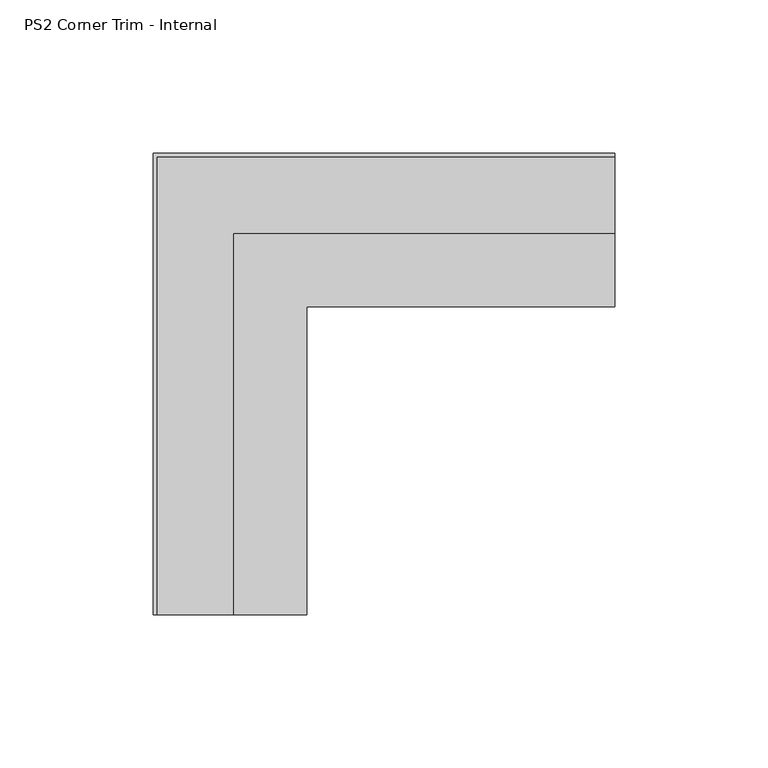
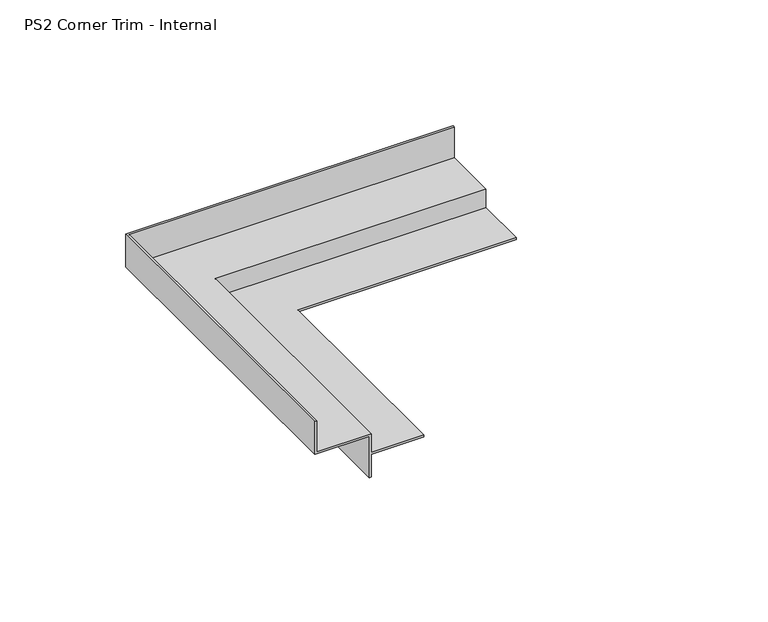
"""IFC4 building model written with IfcOpenShell, lengths in millimetres: proxy geometry, PS2 Corner Trim - Internal : Pelican Systems Plaster Trim 25 x 20."""

from ifc_helpers import new_model, si_unit, origin, place, context, project, spatial, faceted_brep, source, transform, mapped, element, save


def ps2_corner_trim_internal_befc4d37(model_context):
    return source(origin(), model_context, "Body", "Brep", [
        faceted_brep([(-30.0, -120.2318886, 16.0), (-30.0, -120.2318886, 0.0), (-5.0, -120.2318886, 0.0), (-5.0, -120.2318886, -20.0), (-4.0, -120.2318886, -20.0), (-4.0, -120.2318886, -9.0), (20.0, -120.2318886, -9.0), (20.0, -120.2318886, -8.0), (-4.0, -120.2318886, -8.0), (-4.0, -120.2318886, 1.0), (-29.0, -120.2318886, 1.0), (-29.0, -120.2318886, 16.0), (120.2318886, 30.0, 16.0), (120.2318886, 29.0, 16.0), (120.2318886, 29.0, 1.0), (120.2318886, 4.0, 1.0), (120.2318886, 4.0, -8.0), (120.2318886, -20.0, -8.0), (120.2318886, -20.0, -9.0), (120.2318886, 4.0, -9.0), (120.2318886, 4.0, -20.0), (120.2318886, 5.0, -20.0), (120.2318886, 5.0, 0.0), (120.2318886, 30.0, 0.0), (-30.0, 30.0, 0.0), (-30.0, 30.0, 16.0), (-5.0, 5.0, -20.0), (-5.0, 5.0, 0.0), (-4.0, 4.0, 1.0), (-4.0, 4.0, -8.0), (-29.0, 29.0, 16.0), (-29.0, 29.0, 1.0), (-4.0, 4.0, -9.0), (-4.0, 4.0, -20.0), (20.0, -20.0, -8.0), (20.0, -20.0, -9.0)], [[[0, 1, 2, 3, 4, 5, 6, 7, 8, 9, 10, 11]], [[12, 13, 14, 15, 16, 17, 18, 19, 20, 21, 22, 23]], [[24, 25, 12, 23]], [[26, 27, 22, 21]], [[28, 29, 16, 15]], [[30, 31, 14, 13]], [[32, 33, 20, 19]], [[34, 35, 18, 17]], [[1, 0, 25, 24]], [[2, 1, 24, 23, 22, 27]], [[3, 2, 27, 26]], [[4, 3, 26, 21, 20, 33]], [[5, 4, 33, 32]], [[6, 5, 32, 19, 18, 35]], [[7, 6, 35, 34]], [[8, 7, 34, 17, 16, 29]], [[9, 8, 29, 28]], [[10, 9, 28, 15, 14, 31]], [[11, 10, 31, 30]], [[0, 11, 30, 13, 12, 25]]]),
    ])


if __name__ == "__main__":
    model = new_model("IFC4")
    model_context = context("Model", 3, world=origin())
    ifc_project = project(units=[si_unit("LENGTHUNIT", "METRE", prefix="MILLI")], contexts=[model_context])
    site = spatial("IfcSite", under=ifc_project)
    building = spatial("IfcBuilding", under=site)
    placement = place(None, origin())
    ps2_corner_trim_internal_shape = ps2_corner_trim_internal_befc4d37(model_context)
    element("IfcBuildingElementProxy", 1, Name="PS2 Corner Trim - Internal : Pelican Systems Plaster Trim 25 x 20", ObjectType="PS2 Corner Trim - Internal : Pelican Systems Plaster Trim 25 x 20", at=placement, inside=building, context=model_context, shape_type="MappedRepresentation", body=[
        mapped(ps2_corner_trim_internal_shape, transform((0.0, 0.0, 0.0), x_axis=(1.0, 0.0, 0.0), y_axis=(0.0, 1.0, 0.0), z_axis=(0.0, 0.0, 1.0))),
    ])
    save(model, "model.ifc")
